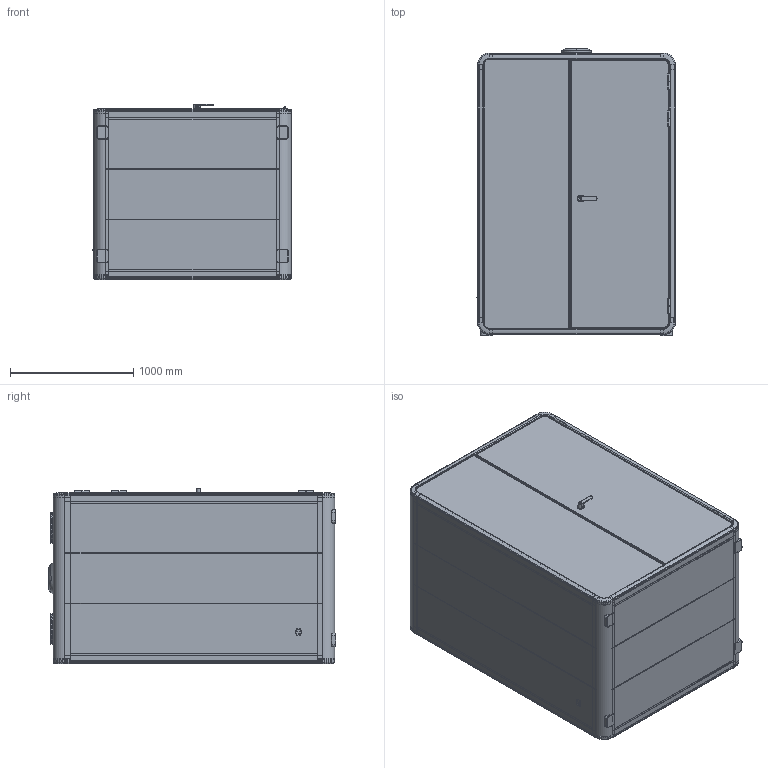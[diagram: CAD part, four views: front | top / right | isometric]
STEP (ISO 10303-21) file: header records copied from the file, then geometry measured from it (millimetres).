
FILE_DESCRIPTION (( 'STEP AP203' ), '1' );
FILE_NAME ('M-ALL.STEP', '2023-08-06T02:49:01', ( '微软用户' ), ( '微软中国' ), 'SwSTEP 2.0', 'SolidWorks 2018', '' );
FILE_SCHEMA (( 'CONFIG_CONTROL_DESIGN' ));
Length unit declared in the file: millimetre
Products named in the file (43): 103000_2_1; 20200_ASM_ASM_1_ASM; M-body; YYD-YX-H_3_4; M勘袤; 720lamp; 袤啣訇傅; 4-200002_1; M勤釴褒撓蚾饜; M馱釬怢醱; socket; 202_ASM0001_ASM; M-ALL; Fan cover; ASM0002_ASM_1_ASM_11_ASM_7_ASM; 20200_ASM_2_ASM_1_ASM; 訇傅境像; Vent; IR sensor; 袤啣褒鎢; ext socket; ZSP_5_4_4; M-bar counter; Handle lock; 1088盓殤; YYD-YX-Q_3_5; 勤釴褒撓釴醱; M勤釴袤蚾饜; Knob controller; 2-SST_2_4; 39200_3; _6-27_3_1; 噩砃訇傅境像; 2020002_2_1; 50100_ASM_2_ASM; M-chat desk; 俋參忒; 勤釴袤怢醱; 4-200001_1; 250fan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
Assembly tree (57 placements, depth 6):
  M-ALL
    M-body
    Knob controller
    socket
    720lamp
    Handle lock
      50100_ASM_2_ASM
        ASM0002_ASM_1_ASM_11_ASM_7_ASM
          ZSP_5_4_4
          2-SST_2_4
      YYD-YX-H_3_4
      4-200002_1
      39200_3
      202_ASM0001_ASM
        20200_ASM_ASM_1_ASM
          20200_ASM_2_ASM_1_ASM
            103000_2_1
            _6-27_3_1
            2020002_2_1
      俋參忒
        YYD-YX-Q_3_5
        4-200001_1
    Fan cover
    IR sensor
    Vent  x6
    M-work desk
      M馱釬怢醱
      袤啣褒鎢  x3
      袤啣訇傅  x2
      訇傅境像
      噩砃訇傅境像
      Wireless charge
    M-bar counter
      M勘袤
      袤啣褒鎢  x2
      1088盓殤
      Wireless charge
    M-chat desk
      M勤釴袤蚾饜
        勤釴袤怢醱
        738盓殤
        袤啣褒鎢
      M勤釴褒撓蚾饜  x2
        勤釴褒撓釴醱
      Wireless charge
    250fan  x2
    ext socket
Bounding box: 1608.11 x 2326 x 1421.7 mm (x, y, z)
Volume: 982548437.5 mm3; surface area: 76213434.8 mm2
Topology: 131 solids, 132 shells, 4449 faces, 10790 edges, 6554 vertices
Faces by surface type: plane 1993, cylinder 1542, torus 368, bspline 280, cone 208, sphere 58
Entity records: 140543 total; most frequent: CARTESIAN_POINT 51925, DIRECTION 17807, ORIENTED_EDGE 17160, EDGE_CURVE 8580, AXIS2_PLACEMENT_3D 6368, VERTEX_POINT 5248, VECTOR 5071, LINE 5071
